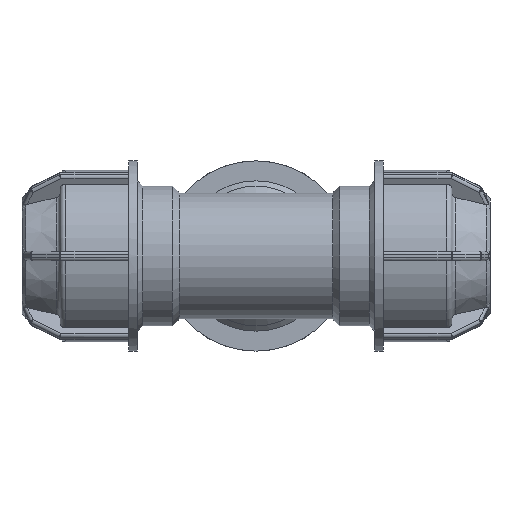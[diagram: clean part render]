
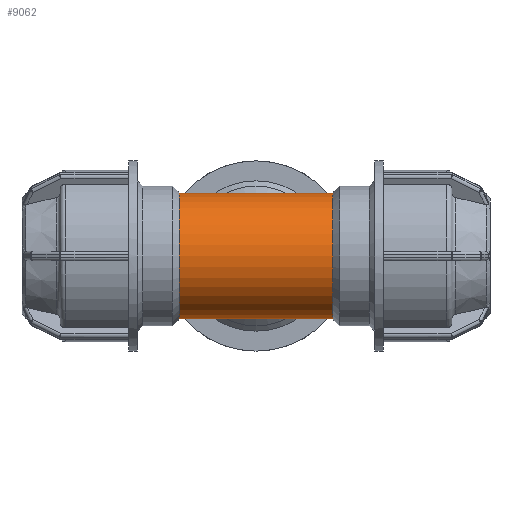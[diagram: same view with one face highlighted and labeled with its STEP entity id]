
A CAD part, front view. The second image highlights one B-rep face of the part: STEP entity #9062.
In plain terms, the highlighted cylindrical face has radius 20.16 mm (diameter 40.32 mm), a full revolution.
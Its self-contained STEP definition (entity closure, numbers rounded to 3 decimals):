
#15=ELLIPSE('',#9987,28.511,20.16);
#16=ELLIPSE('',#9988,28.511,20.16);
#1920=CYLINDRICAL_SURFACE('',#10008,20.16);
#2009=FACE_BOUND('',#3058,.T.);
#2010=FACE_BOUND('',#3059,.T.);
#2426=FACE_OUTER_BOUND('',#3057,.T.);
#3057=EDGE_LOOP('',(#7731));
#3058=EDGE_LOOP('',(#7732));
#3059=EDGE_LOOP('',(#7733,#7734));
#3271=CIRCLE('',#9264,20.16);
#3277=CIRCLE('',#9274,20.16);
#3775=VERTEX_POINT('',#13134);
#3781=VERTEX_POINT('',#13150);
#4300=VERTEX_POINT('',#16130);
#4301=VERTEX_POINT('',#16131);
#4571=EDGE_CURVE('',#3775,#3775,#3271,.T.);
#4577=EDGE_CURVE('',#3781,#3781,#3277,.T.);
#5467=EDGE_CURVE('',#4300,#4301,#15,.T.);
#5468=EDGE_CURVE('',#4300,#4301,#16,.T.);
#7731=ORIENTED_EDGE('',*,*,#4577,.F.);
#7732=ORIENTED_EDGE('',*,*,#4571,.F.);
#7733=ORIENTED_EDGE('',*,*,#5468,.T.);
#7734=ORIENTED_EDGE('',*,*,#5467,.F.);
#9062=ADVANCED_FACE('',(#2426,#2009,#2010),#1920,.T.);
#9264=AXIS2_PLACEMENT_3D('',#13135,#10376,#10377);
#9274=AXIS2_PLACEMENT_3D('',#13151,#10396,#10397);
#9987=AXIS2_PLACEMENT_3D('',#16132,#12182,#12183);
#9988=AXIS2_PLACEMENT_3D('',#16133,#12184,#12185);
#10008=AXIS2_PLACEMENT_3D('',#16161,#12224,#12225);
#10376=DIRECTION('center_axis',(1.,0.,0.));
#10377=DIRECTION('ref_axis',(0.,0.,-1.));
#10396=DIRECTION('center_axis',(-1.,0.,0.));
#10397=DIRECTION('ref_axis',(0.,0.,-1.));
#12182=DIRECTION('center_axis',(0.707,0.707,0.));
#12183=DIRECTION('ref_axis',(0.707,-0.707,0.));
#12184=DIRECTION('center_axis',(0.707,-0.707,0.));
#12185=DIRECTION('ref_axis',(-0.707,-0.707,0.));
#12224=DIRECTION('center_axis',(1.,0.,0.));
#12225=DIRECTION('ref_axis',(0.,1.,0.));
#13134=CARTESIAN_POINT('',(24.6,20.16,0.));
#13135=CARTESIAN_POINT('Origin',(24.6,0.,0.));
#13150=CARTESIAN_POINT('',(-24.6,-20.16,0.));
#13151=CARTESIAN_POINT('Origin',(-24.6,0.,0.));
#16130=CARTESIAN_POINT('',(0.,0.,
-20.16));
#16131=CARTESIAN_POINT('',(0.,0.,
20.16));
#16132=CARTESIAN_POINT('Origin',(0.,0.,0.));
#16133=CARTESIAN_POINT('Origin',(0.,0.,
0.));
#16161=CARTESIAN_POINT('Origin',(12.3,0.,0.));
